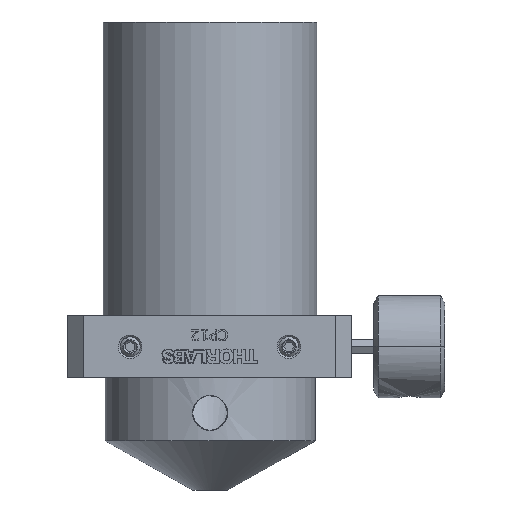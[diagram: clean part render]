
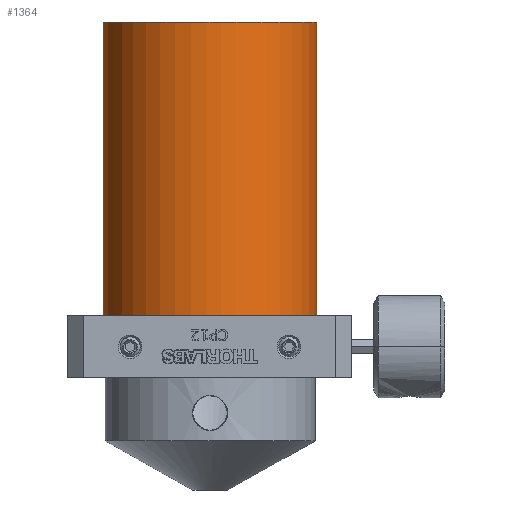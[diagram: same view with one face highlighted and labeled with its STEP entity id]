
A CAD part, front view. The second image highlights one B-rep face of the part: STEP entity #1364.
In plain terms, the highlighted free-form (B-spline) face has degree [1, 2] with [2, 9] control points.
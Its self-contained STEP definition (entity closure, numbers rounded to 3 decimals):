
#1364=ADVANCED_FACE('',(#2291),#31388,.T.);
#2291=FACE_OUTER_BOUND('',#3297,.T.);
#3297=EDGE_LOOP('',(#7893,#7894,#7895,#7896));
#7893=ORIENTED_EDGE('',*,*,#28647,.F.);
#7894=ORIENTED_EDGE('',*,*,#28651,.T.);
#7895=ORIENTED_EDGE('',*,*,#28652,.T.);
#7896=ORIENTED_EDGE('',*,*,#28653,.T.);
#12593=PCURVE('',#31187,#17297);
#12597=PCURVE('',#31388,#17301);
#12598=PCURVE('',#31388,#17302);
#12599=PCURVE('',#31388,#17303);
#12600=PCURVE('',#31388,#17304);
#12602=PCURVE('',#31188,#17306);
#12609=PCURVE('',#31390,#17313);
#12611=PCURVE('',#31390,#17315);
#17297=DEFINITIONAL_REPRESENTATION('',(#29143),#69303);
#17301=DEFINITIONAL_REPRESENTATION('',(#23861),#69303);
#17302=DEFINITIONAL_REPRESENTATION('',(#23863),#69303);
#17303=DEFINITIONAL_REPRESENTATION('',(#23864),#69303);
#17304=DEFINITIONAL_REPRESENTATION('',(#23865),#69303);
#17306=DEFINITIONAL_REPRESENTATION('',(#29152),#69303);
#17313=DEFINITIONAL_REPRESENTATION('',(#23873),#69303);
#17315=DEFINITIONAL_REPRESENTATION('',(#23875),#69303);
#23861=B_SPLINE_CURVE_WITH_KNOTS('',1,(#67258,#67259),.UNSPECIFIED.,.F.,
 .F.,(2,2),(-5.655,-2.827),.UNSPECIFIED.);
#23862=B_SPLINE_CURVE_WITH_KNOTS('',1,(#67260,#67261),.UNSPECIFIED.,.F.,
 .F.,(2,2),(0.,2.),.UNSPECIFIED.);
#23863=B_SPLINE_CURVE_WITH_KNOTS('',1,(#67262,#67263),.UNSPECIFIED.,.F.,
 .F.,(2,2),(0.,2.),.UNSPECIFIED.);
#23864=B_SPLINE_CURVE_WITH_KNOTS('',1,(#67269,#67270),.UNSPECIFIED.,.F.,
 .F.,(2,2),(-5.655,-2.827),.UNSPECIFIED.);
#23865=B_SPLINE_CURVE_WITH_KNOTS('',1,(#67273,#67274),.UNSPECIFIED.,.F.,
 .F.,(2,2),(-2.,0.),.UNSPECIFIED.);
#23873=B_SPLINE_CURVE_WITH_KNOTS('',1,(#67914,#67915),.UNSPECIFIED.,.F.,
 .F.,(2,2),(-2.,0.),.UNSPECIFIED.);
#23875=B_SPLINE_CURVE_WITH_KNOTS('',1,(#67918,#67919),.UNSPECIFIED.,.F.,
 .F.,(2,2),(0.,2.),.UNSPECIFIED.);
#26294=SURFACE_CURVE('',#29142,(#12593,#12597),.PCURVE_S1.);
#26298=SURFACE_CURVE('',#23862,(#12598,#12611),.PCURVE_S1.);
#26299=SURFACE_CURVE('',#29148,(#12599,#12602),.PCURVE_S1.);
#26300=SURFACE_CURVE('',#29149,(#12600,#12609),.PCURVE_S1.);
#28647=EDGE_CURVE('',#30673,#30677,#26294,.T.);
#28651=EDGE_CURVE('',#30673,#30674,#26298,.T.);
#28652=EDGE_CURVE('',#30674,#30678,#26299,.T.);
#28653=EDGE_CURVE('',#30678,#30677,#26300,.T.);
#29142=(
BOUNDED_CURVE()
B_SPLINE_CURVE(2,(#66626,#66627,#66628,#66629,#66630),.UNSPECIFIED.,.F.,
 .F.)
B_SPLINE_CURVE_WITH_KNOTS((3,2,3),(-5.655,-4.241,-2.827),
 .UNSPECIFIED.)
CURVE()
GEOMETRIC_REPRESENTATION_ITEM()
RATIONAL_B_SPLINE_CURVE((1.,0.707,1.,0.707,1.))
REPRESENTATION_ITEM('')
);
#29143=(
BOUNDED_CURVE()
B_SPLINE_CURVE(2,(#66631,#66632,#66633,#66634,#66635),.UNSPECIFIED.,.F.,
 .F.)
B_SPLINE_CURVE_WITH_KNOTS((3,2,3),(-5.655,-4.241,-2.827),
 .UNSPECIFIED.)
CURVE()
GEOMETRIC_REPRESENTATION_ITEM()
RATIONAL_B_SPLINE_CURVE((1.,0.707,1.,0.707,1.))
REPRESENTATION_ITEM('')
);
#29148=(
BOUNDED_CURVE()
B_SPLINE_CURVE(2,(#67264,#67265,#67266,#67267,#67268),.UNSPECIFIED.,.F.,
 .F.)
B_SPLINE_CURVE_WITH_KNOTS((3,2,3),(-5.655,-4.241,-2.827),
 .UNSPECIFIED.)
CURVE()
GEOMETRIC_REPRESENTATION_ITEM()
RATIONAL_B_SPLINE_CURVE((1.,0.707,1.,0.707,1.))
REPRESENTATION_ITEM('')
);
#29149=(
BOUNDED_CURVE()
B_SPLINE_CURVE(1,(#67271,#67272),.UNSPECIFIED.,.F.,.F.)
B_SPLINE_CURVE_WITH_KNOTS((2,2),(-2.,0.),.UNSPECIFIED.)
CURVE()
GEOMETRIC_REPRESENTATION_ITEM()
RATIONAL_B_SPLINE_CURVE((1.,1.))
REPRESENTATION_ITEM('')
);
#29152=(
BOUNDED_CURVE()
B_SPLINE_CURVE(2,(#67285,#67286,#67287,#67288,#67289),.UNSPECIFIED.,.F.,
 .F.)
B_SPLINE_CURVE_WITH_KNOTS((3,2,3),(-5.655,-4.241,-2.827),
 .UNSPECIFIED.)
CURVE()
GEOMETRIC_REPRESENTATION_ITEM()
RATIONAL_B_SPLINE_CURVE((1.,0.707,1.,0.707,1.))
REPRESENTATION_ITEM('')
);
#30673=VERTEX_POINT('',#66618);
#30674=VERTEX_POINT('',#66619);
#30677=VERTEX_POINT('',#66622);
#30678=VERTEX_POINT('',#66623);
#31187=PLANE('',#31929);
#31188=PLANE('',#31930);
#31388=(
BOUNDED_SURFACE()
B_SPLINE_SURFACE(1,2,((#66545,#66546,#66547,#66548,#66549,#66550,#66551,
#66552,#66553),(#66554,#66555,#66556,#66557,#66558,#66559,#66560,#66561,
#66562)),.UNSPECIFIED.,.F.,.F.,.F.)
B_SPLINE_SURFACE_WITH_KNOTS((2,2),(3,2,2,2,3),(0.,2.),(-5.655,
-4.241,-2.827,-1.414,0.),.UNSPECIFIED.)
GEOMETRIC_REPRESENTATION_ITEM()
RATIONAL_B_SPLINE_SURFACE(((1.,0.707,1.,0.707,1.,
0.707,1.,0.707,1.),(1.,0.707,1.,0.707,
1.,0.707,1.,0.707,1.)))
REPRESENTATION_ITEM('')
SURFACE()
);
#31390=(
BOUNDED_SURFACE()
B_SPLINE_SURFACE(1,2,((#66582,#66583,#66584,#66585,#66586,#66587,#66588,
#66589,#66590),(#66591,#66592,#66593,#66594,#66595,#66596,#66597,#66598,
#66599)),.UNSPECIFIED.,.F.,.F.,.F.)
B_SPLINE_SURFACE_WITH_KNOTS((2,2),(3,2,2,2,3),(0.,2.),(-5.655,
-4.241,-2.827,-1.414,0.),.UNSPECIFIED.)
GEOMETRIC_REPRESENTATION_ITEM()
RATIONAL_B_SPLINE_SURFACE(((1.,0.707,1.,0.707,1.,
0.707,1.,0.707,1.),(1.,0.707,1.,0.707,
1.,0.707,1.,0.707,1.)))
REPRESENTATION_ITEM('')
SURFACE()
);
#31929=AXIS2_PLACEMENT_3D('',#66544,#32410,$);
#31930=AXIS2_PLACEMENT_3D('',#66563,#32411,$);
#32410=DIRECTION('',(0.,0.,1.));
#32411=DIRECTION('',(0.,0.,-1.));
#66544=CARTESIAN_POINT('',(15.24,-15.24,66.8));
#66545=CARTESIAN_POINT('',(-15.24,0.,66.8));
#66546=CARTESIAN_POINT('',(-15.24,-15.24,66.8));
#66547=CARTESIAN_POINT('',(0.,-15.24,66.8));
#66548=CARTESIAN_POINT('',(15.24,-15.24,66.8));
#66549=CARTESIAN_POINT('',(15.24,0.,66.8));
#66550=CARTESIAN_POINT('',(15.24,15.24,66.8));
#66551=CARTESIAN_POINT('',(0.,15.24,66.8));
#66552=CARTESIAN_POINT('',(-15.24,15.24,66.8));
#66553=CARTESIAN_POINT('',(-15.24,0.,66.8));
#66554=CARTESIAN_POINT('',(-15.24,0.,16.));
#66555=CARTESIAN_POINT('',(-15.24,-15.24,16.));
#66556=CARTESIAN_POINT('',(0.,-15.24,16.));
#66557=CARTESIAN_POINT('',(15.24,-15.24,16.));
#66558=CARTESIAN_POINT('',(15.24,0.,16.));
#66559=CARTESIAN_POINT('',(15.24,15.24,16.));
#66560=CARTESIAN_POINT('',(0.,15.24,16.));
#66561=CARTESIAN_POINT('',(-15.24,15.24,16.));
#66562=CARTESIAN_POINT('',(-15.24,0.,16.));
#66563=CARTESIAN_POINT('',(15.24,-15.24,16.));
#66582=CARTESIAN_POINT('',(-15.24,0.,66.8));
#66583=CARTESIAN_POINT('',(-15.24,-15.24,66.8));
#66584=CARTESIAN_POINT('',(0.,-15.24,66.8));
#66585=CARTESIAN_POINT('',(15.24,-15.24,66.8));
#66586=CARTESIAN_POINT('',(15.24,0.,66.8));
#66587=CARTESIAN_POINT('',(15.24,15.24,66.8));
#66588=CARTESIAN_POINT('',(0.,15.24,66.8));
#66589=CARTESIAN_POINT('',(-15.24,15.24,66.8));
#66590=CARTESIAN_POINT('',(-15.24,0.,66.8));
#66591=CARTESIAN_POINT('',(-15.24,0.,16.));
#66592=CARTESIAN_POINT('',(-15.24,-15.24,16.));
#66593=CARTESIAN_POINT('',(0.,-15.24,16.));
#66594=CARTESIAN_POINT('',(15.24,-15.24,16.));
#66595=CARTESIAN_POINT('',(15.24,0.,16.));
#66596=CARTESIAN_POINT('',(15.24,15.24,16.));
#66597=CARTESIAN_POINT('',(0.,15.24,16.));
#66598=CARTESIAN_POINT('',(-15.24,15.24,16.));
#66599=CARTESIAN_POINT('',(-15.24,0.,16.));
#66618=CARTESIAN_POINT('',(-15.24,0.,66.8));
#66619=CARTESIAN_POINT('',(-15.24,0.,16.));
#66622=CARTESIAN_POINT('',(15.24,0.,66.8));
#66623=CARTESIAN_POINT('',(15.24,0.,16.));
#66626=CARTESIAN_POINT('',(-15.24,0.,66.8));
#66627=CARTESIAN_POINT('',(-15.24,-15.24,66.8));
#66628=CARTESIAN_POINT('',(0.,-15.24,66.8));
#66629=CARTESIAN_POINT('',(15.24,-15.24,66.8));
#66630=CARTESIAN_POINT('',(15.24,0.,66.8));
#66631=CARTESIAN_POINT('',(0.,0.));
#66632=CARTESIAN_POINT('',(-0.9,0.));
#66633=CARTESIAN_POINT('',(-0.9,-0.9));
#66634=CARTESIAN_POINT('',(-0.9,-1.8));
#66635=CARTESIAN_POINT('',(0.,-1.8));
#67258=CARTESIAN_POINT('',(0.,-5.655));
#67259=CARTESIAN_POINT('',(0.,-2.827));
#67260=CARTESIAN_POINT('',(-15.24,0.,66.8));
#67261=CARTESIAN_POINT('',(-15.24,0.,16.));
#67262=CARTESIAN_POINT('',(0.,-5.655));
#67263=CARTESIAN_POINT('',(2.,-5.655));
#67264=CARTESIAN_POINT('',(-15.24,0.,16.));
#67265=CARTESIAN_POINT('',(-15.24,-15.24,16.));
#67266=CARTESIAN_POINT('',(0.,-15.24,16.));
#67267=CARTESIAN_POINT('',(15.24,-15.24,16.));
#67268=CARTESIAN_POINT('',(15.24,0.,16.));
#67269=CARTESIAN_POINT('',(2.,-5.655));
#67270=CARTESIAN_POINT('',(2.,-2.827));
#67271=CARTESIAN_POINT('',(15.24,0.,16.));
#67272=CARTESIAN_POINT('',(15.24,0.,66.8));
#67273=CARTESIAN_POINT('',(2.,-2.827));
#67274=CARTESIAN_POINT('',(0.,-2.827));
#67285=CARTESIAN_POINT('',(0.,0.));
#67286=CARTESIAN_POINT('',(0.,-0.9));
#67287=CARTESIAN_POINT('',(-0.9,-0.9));
#67288=CARTESIAN_POINT('',(-1.8,-0.9));
#67289=CARTESIAN_POINT('',(-1.8,0.));
#67914=CARTESIAN_POINT('',(2.,-2.827));
#67915=CARTESIAN_POINT('',(0.,-2.827));
#67918=CARTESIAN_POINT('',(0.,0.));
#67919=CARTESIAN_POINT('',(2.,0.));
#69303=(
GEOMETRIC_REPRESENTATION_CONTEXT(2)
PARAMETRIC_REPRESENTATION_CONTEXT()
REPRESENTATION_CONTEXT('pspace','')
);
